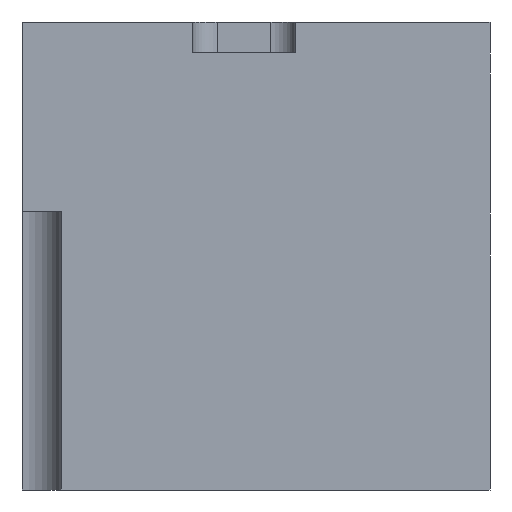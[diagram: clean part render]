
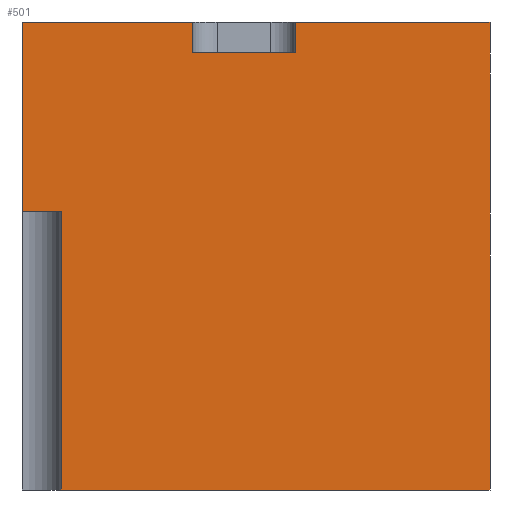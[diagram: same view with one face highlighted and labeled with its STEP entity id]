
A CAD part, front view. The second image highlights one B-rep face of the part: STEP entity #501.
In plain terms, the highlighted planar face has unit normal (0, -1, 0).
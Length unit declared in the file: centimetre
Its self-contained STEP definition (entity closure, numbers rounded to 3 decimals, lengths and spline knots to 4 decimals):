
#8 = CARTESIAN_POINT ( 'NONE',  ( 365.1042, 0., 934.2988 ) ) ;
#9 = CARTESIAN_POINT ( 'NONE',  ( 583.6814, 0., 934.2988 ) ) ;
#10 = ORIENTED_EDGE ( 'NONE', *, *, #595, .F. ) ;
#30 = DIRECTION ( 'NONE',  ( 0., 0., 1. ) ) ;
#43 = VECTOR ( 'NONE', #30, 100. ) ;
#55 = CARTESIAN_POINT ( 'NONE',  ( 0., 0., 594.3079 ) ) ;
#72 = ORIENTED_EDGE ( 'NONE', *, *, #1212, .T. ) ;
#79 = VECTOR ( 'NONE', #1332, 100. ) ;
#100 = ORIENTED_EDGE ( 'NONE', *, *, #719, .T. ) ;
#129 = VERTEX_POINT ( 'NONE', #1094 ) ;
#130 = DIRECTION ( 'NONE',  ( 0., 0., -1. ) ) ;
#175 = VERTEX_POINT ( 'NONE', #524 ) ;
#199 = VECTOR ( 'NONE', #486, 100. ) ;
#210 = VERTEX_POINT ( 'NONE', #506 ) ;
#215 = CARTESIAN_POINT ( 'NONE',  ( 0., 0., 1000. ) ) ;
#234 = VECTOR ( 'NONE', #1394, 100. ) ;
#265 = DIRECTION ( 'NONE',  ( 1., 0., 0. ) ) ;
#273 = CARTESIAN_POINT ( 'NONE',  ( 0., 0., 1000. ) ) ;
#274 = CARTESIAN_POINT ( 'NONE',  ( 0., 0., 1000. ) ) ;
#285 = VERTEX_POINT ( 'NONE', #770 ) ;
#305 = EDGE_CURVE ( 'NONE', #1050, #285, #1442, .T. ) ;
#380 = AXIS2_PLACEMENT_3D ( 'NONE', #273, #919, #1368 ) ;
#398 = CARTESIAN_POINT ( 'NONE',  ( 0., 0., 1000. ) ) ;
#440 = EDGE_CURVE ( 'NONE', #175, #285, #605, .T. ) ;
#444 = VECTOR ( 'NONE', #765, 100. ) ;
#486 = DIRECTION ( 'NONE',  ( 0., 0., -1. ) ) ;
#497 = CARTESIAN_POINT ( 'NONE',  ( 0., 0., 934.2988 ) ) ;
#500 = ORIENTED_EDGE ( 'NONE', *, *, #1338, .F. ) ;
#501 = ADVANCED_FACE ( 'NONE', ( #936 ), #912, .F. ) ;
#506 = CARTESIAN_POINT ( 'NONE',  ( 583.6814, 0., 1000. ) ) ;
#511 = CARTESIAN_POINT ( 'NONE',  ( 84.2248, 0., 0. ) ) ;
#524 = CARTESIAN_POINT ( 'NONE',  ( 365.1042, 0., 934.2988 ) ) ;
#568 = EDGE_CURVE ( 'NONE', #210, #1137, #620, .T. ) ;
#578 = ORIENTED_EDGE ( 'NONE', *, *, #669, .T. ) ;
#595 = EDGE_CURVE ( 'NONE', #175, #1180, #835, .T. ) ;
#605 = LINE ( 'NONE', #8, #43 ) ;
#620 = LINE ( 'NONE', #398, #234 ) ;
#640 = LINE ( 'NONE', #1308, #444 ) ;
#668 = VECTOR ( 'NONE', #1395, 100. ) ;
#669 = EDGE_CURVE ( 'NONE', #1050, #1127, #1156, .T. ) ;
#670 = CARTESIAN_POINT ( 'NONE',  ( 1000., 0., 1000. ) ) ;
#719 = EDGE_CURVE ( 'NONE', #210, #1180, #1267, .T. ) ;
#728 = ORIENTED_EDGE ( 'NONE', *, *, #305, .F. ) ;
#765 = DIRECTION ( 'NONE',  ( 0., 0., -1. ) ) ;
#770 = CARTESIAN_POINT ( 'NONE',  ( 365.1042, 0., 1000. ) ) ;
#828 = ORIENTED_EDGE ( 'NONE', *, *, #1409, .T. ) ;
#835 = LINE ( 'NONE', #497, #991 ) ;
#852 = VECTOR ( 'NONE', #265, 100. ) ;
#868 = EDGE_CURVE ( 'NONE', #129, #1127, #1411, .T. ) ;
#912 = PLANE ( 'NONE',  #380 ) ;
#919 = DIRECTION ( 'NONE',  ( 0., 1., 0. ) ) ;
#922 = ORIENTED_EDGE ( 'NONE', *, *, #568, .F. ) ;
#936 = FACE_OUTER_BOUND ( 'NONE', #1334, .T. ) ;
#991 = VECTOR ( 'NONE', #1181, 100. ) ;
#1049 = CARTESIAN_POINT ( 'NONE',  ( 0., 0., 0. ) ) ;
#1050 = VERTEX_POINT ( 'NONE', #215 ) ;
#1094 = CARTESIAN_POINT ( 'NONE',  ( 84.2248, 0., 594.3079 ) ) ;
#1096 = CARTESIAN_POINT ( 'NONE',  ( 1000., 0., 1000. ) ) ;
#1102 = CARTESIAN_POINT ( 'NONE',  ( 583.6814, 0., 934.2988 ) ) ;
#1122 = CARTESIAN_POINT ( 'NONE',  ( 1000., 0., 0. ) ) ;
#1124 = VERTEX_POINT ( 'NONE', #511 ) ;
#1127 = VERTEX_POINT ( 'NONE', #1408 ) ;
#1137 = VERTEX_POINT ( 'NONE', #1096 ) ;
#1143 = LINE ( 'NONE', #1049, #852 ) ;
#1156 = LINE ( 'NONE', #274, #1206 ) ;
#1180 = VERTEX_POINT ( 'NONE', #1102 ) ;
#1181 = DIRECTION ( 'NONE',  ( 1., 0., 0. ) ) ;
#1206 = VECTOR ( 'NONE', #1260, 100. ) ;
#1212 = EDGE_CURVE ( 'NONE', #129, #1124, #640, .T. ) ;
#1228 = CARTESIAN_POINT ( 'NONE',  ( 0., 0., 1000. ) ) ;
#1251 = VECTOR ( 'NONE', #130, 100. ) ;
#1260 = DIRECTION ( 'NONE',  ( 0., 0., -1. ) ) ;
#1264 = ORIENTED_EDGE ( 'NONE', *, *, #868, .F. ) ;
#1267 = LINE ( 'NONE', #9, #199 ) ;
#1308 = CARTESIAN_POINT ( 'NONE',  ( 84.2248, 0., 594.3079 ) ) ;
#1332 = DIRECTION ( 'NONE',  ( 1., 0., 0. ) ) ;
#1333 = LINE ( 'NONE', #670, #1251 ) ;
#1334 = EDGE_LOOP ( 'NONE', ( #1264, #72, #828, #500, #922, #100, #10, #1438, #728, #578 ) ) ;
#1338 = EDGE_CURVE ( 'NONE', #1137, #1365, #1333, .T. ) ;
#1365 = VERTEX_POINT ( 'NONE', #1122 ) ;
#1368 = DIRECTION ( 'NONE',  ( 0., 0., 1. ) ) ;
#1394 = DIRECTION ( 'NONE',  ( 1., 0., 0. ) ) ;
#1395 = DIRECTION ( 'NONE',  ( -1., 0., 0. ) ) ;
#1408 = CARTESIAN_POINT ( 'NONE',  ( 0., 0., 594.3079 ) ) ;
#1409 = EDGE_CURVE ( 'NONE', #1124, #1365, #1143, .T. ) ;
#1411 = LINE ( 'NONE', #55, #668 ) ;
#1438 = ORIENTED_EDGE ( 'NONE', *, *, #440, .T. ) ;
#1442 = LINE ( 'NONE', #1228, #79 ) ;
